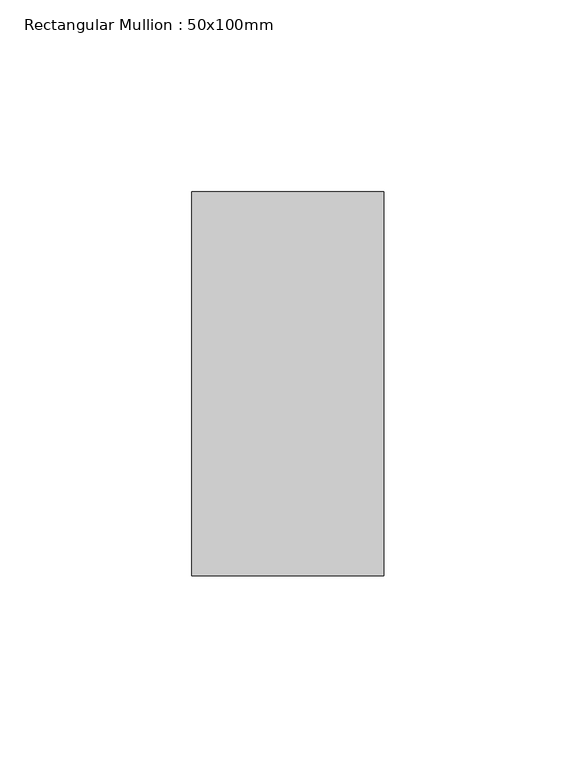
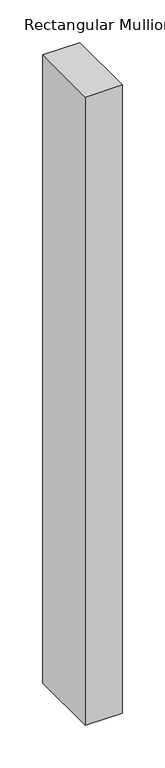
"""IFC4 building model written with IfcOpenShell, lengths in millimetres: member geometry, Rectangular Mullion : 50x100mm."""

from ifc_helpers import new_model, si_unit, frame, origin, place, context, project, spatial, polyline, outline, extrude, source, transform, mapped, element, save


def rectangular_mullion_50x100mm_f6e55a01(model_context):
    return source(origin(), model_context, "Body", "SweptSolid", [
        extrude(outline(polyline([(0.0, 50.0), (0.0, -50.0), (-50.0, -50.0), (-50.0, 50.0), (0.0, 50.0)])), frame((0.0, 0.0, -900.045086), z_axis=(0.0, 0.0, 1.0), x_axis=(1.0, 0.0, 0.0)), (0.0, 0.0, 1.0), 900.045086),
    ])


if __name__ == "__main__":
    model = new_model("IFC4")
    model_context = context("Model", 3, world=origin())
    ifc_project = project(units=[si_unit("LENGTHUNIT", "METRE", prefix="MILLI")], contexts=[model_context])
    site = spatial("IfcSite", under=ifc_project)
    building = spatial("IfcBuilding", under=site)
    placement = place(None, origin())
    rectangular_mullion_50x100mm_shape = rectangular_mullion_50x100mm_f6e55a01(model_context)
    element("IfcMember", 1, ObjectType="Rectangular Mullion : 50x100mm", at=placement, inside=building, context=model_context, shape_type="MappedRepresentation", body=[
        mapped(rectangular_mullion_50x100mm_shape, transform((0.0, 0.0, 0.0), x_axis=(1.0, 0.0, 0.0), y_axis=(0.0, 1.0, 0.0), z_axis=(0.0, 0.0, 1.0))),
    ])
    save(model, "model.ifc")
